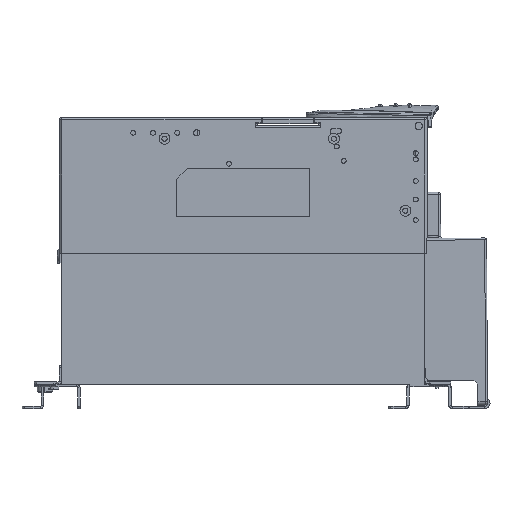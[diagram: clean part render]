
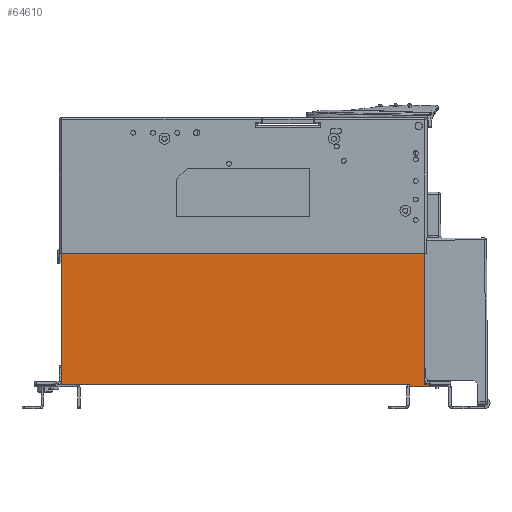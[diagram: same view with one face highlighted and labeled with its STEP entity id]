
A CAD part, left-side view. The second image highlights one B-rep face of the part: STEP entity #64610.
In plain terms, the highlighted planar face has unit normal (-1, 0, 0).
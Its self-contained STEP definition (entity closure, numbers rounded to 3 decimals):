
#10644=DIRECTION('',(0.,0.,-1.));
#10645=VECTOR('',#10644,108.5);
#10646=CARTESIAN_POINT('',(-40.,-150.,48.5));
#10647=LINE('',#10646,#10645);
#10648=DIRECTION('',(0.,-1.,0.));
#10649=VECTOR('',#10648,3.65);
#10650=CARTESIAN_POINT('',(-40.,-150.,-60.));
#10651=LINE('',#10650,#10649);
#10652=DIRECTION('',(0.,1.,0.));
#10653=VECTOR('',#10652,15.85);
#10654=CARTESIAN_POINT('',(-40.,-153.65,-62.));
#10655=LINE('',#10654,#10653);
#10656=DIRECTION('',(0.,0.,1.));
#10657=VECTOR('',#10656,2.);
#10658=CARTESIAN_POINT('',(-40.,-137.8,-62.));
#10659=LINE('',#10658,#10657);
#10660=DIRECTION('',(0.,0.,1.));
#10661=VECTOR('',#10660,108.5);
#10662=CARTESIAN_POINT('',(-40.,150.,-60.));
#10663=LINE('',#10662,#10661);
#10664=DIRECTION('',(0.,-1.,0.));
#10665=VECTOR('',#10664,300.);
#10666=CARTESIAN_POINT('',(-40.,150.,48.5));
#10667=LINE('',#10666,#10665);
#11645=DIRECTION('',(0.,0.,1.));
#11646=VECTOR('',#11645,2.);
#11647=CARTESIAN_POINT('',(-40.,-153.65,-62.));
#11648=LINE('',#11647,#11646);
#12426=DIRECTION('',(0.,-1.,0.));
#12427=VECTOR('',#12426,287.8);
#12428=CARTESIAN_POINT('',(-40.,150.,-60.));
#12429=LINE('',#12428,#12427);
#47460=CARTESIAN_POINT('',(-40.,-137.8,-62.));
#47461=VERTEX_POINT('',#47460);
#47498=CARTESIAN_POINT('',(-40.,-153.65,-62.));
#47499=VERTEX_POINT('',#47498);
#47500=CARTESIAN_POINT('',(-40.,-153.65,-60.));
#47501=VERTEX_POINT('',#47500);
#49847=CARTESIAN_POINT('',(-40.,-150.,48.5));
#49848=VERTEX_POINT('',#49847);
#49871=CARTESIAN_POINT('',(-40.,150.,48.5));
#49872=VERTEX_POINT('',#49871);
#49933=CARTESIAN_POINT('',(-40.,150.,-60.));
#49934=VERTEX_POINT('',#49933);
#50719=CARTESIAN_POINT('',(-40.,-150.,-60.));
#50721=VERTEX_POINT('',#50719);
#50723=CARTESIAN_POINT('',(-40.,-137.8,-60.));
#50725=VERTEX_POINT('',#50723);
#64590=CARTESIAN_POINT('',(-40.,0.,-5.75));
#64591=DIRECTION('',(1.,0.,0.));
#64592=DIRECTION('',(0.,0.,1.));
#64593=AXIS2_PLACEMENT_3D('',#64590,#64591,#64592);
#64594=PLANE('',#64593);
#64595=ORIENTED_EDGE('',*,*,#53026,.T.);
#64597=ORIENTED_EDGE('',*,*,#64596,.T.);
#64599=ORIENTED_EDGE('',*,*,#64598,.F.);
#64601=ORIENTED_EDGE('',*,*,#64600,.T.);
#64603=ORIENTED_EDGE('',*,*,#64602,.T.);
#64605=ORIENTED_EDGE('',*,*,#64604,.F.);
#64606=ORIENTED_EDGE('',*,*,#52622,.T.);
#64607=ORIENTED_EDGE('',*,*,#64567,.T.);
#64608=EDGE_LOOP('',(#64595,#64597,#64599,#64601,#64603,#64605,#64606,#64607));
#64609=FACE_OUTER_BOUND('',#64608,.F.);
#52622=EDGE_CURVE('',#49934,#49872,#10663,.T.);
#53026=EDGE_CURVE('',#49848,#50721,#10647,.T.);
#64567=EDGE_CURVE('',#49872,#49848,#10667,.T.);
#64596=EDGE_CURVE('',#50721,#47501,#10651,.T.);
#64598=EDGE_CURVE('',#47499,#47501,#11648,.T.);
#64600=EDGE_CURVE('',#47499,#47461,#10655,.T.);
#64602=EDGE_CURVE('',#47461,#50725,#10659,.T.);
#64604=EDGE_CURVE('',#49934,#50725,#12429,.T.);
#64610=ADVANCED_FACE('',(#64609),#64594,.F.);
